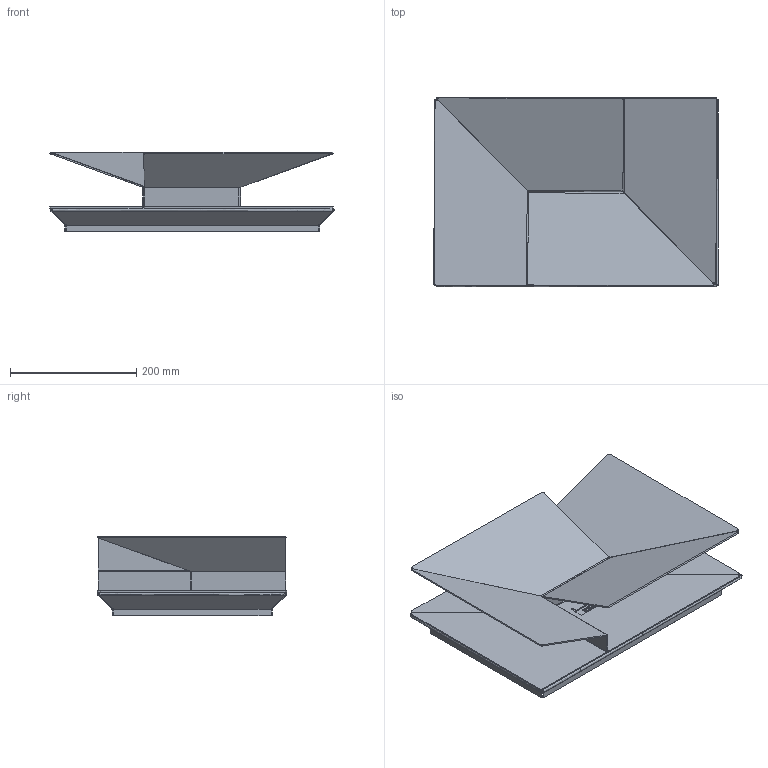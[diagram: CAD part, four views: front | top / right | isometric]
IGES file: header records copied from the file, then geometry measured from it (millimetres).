
Start section: SolidWorks IGES file using analytic representation for surfaces
Global section: file name: C:\Users\tungari.NEMOLIGHTING\Desktop\3D\WALL\3D_WALL_SHADOW_MOYENNN\DEF\3D_WALL_SHADOW_MOYEN.IGS; native system: SolidWorks 2016; preprocessor: SolidWorks 2016; author: tungari; date: 180315.101150; units: millimetre
Bounding box: 450.87 x 300.24 x 125.59 mm (x, y, z)
Surface area: 977474.2 mm2 (no closed solid volume)
Topology: 0 solids, 0 shells, 542 faces, 4288 edges, 4288 vertices
Faces by surface type: bspline 469, revolution 73
